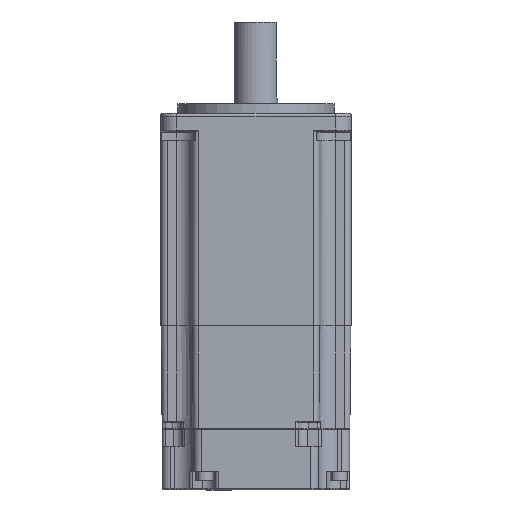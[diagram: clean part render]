
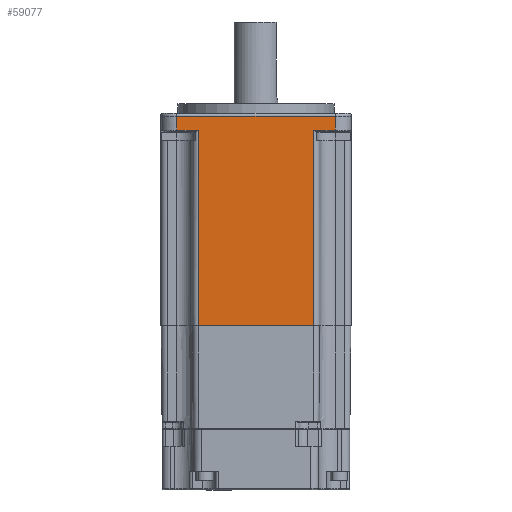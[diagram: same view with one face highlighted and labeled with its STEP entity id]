
A CAD part, front view. The second image highlights one B-rep face of the part: STEP entity #59077.
In plain terms, the highlighted planar face has unit normal (0, -1, 0).
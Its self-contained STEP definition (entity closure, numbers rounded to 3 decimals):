
#483 = VERTEX_POINT ( 'NONE', #37263 ) ;
#2258 = VECTOR ( 'NONE', #58758, 1000. ) ;
#2312 = CARTESIAN_POINT ( 'NONE',  ( -306.616, -30.381, -78.567 ) ) ;
#3154 = CARTESIAN_POINT ( 'NONE',  ( -299.618, -30.381, -79.012 ) ) ;
#3271 = ORIENTED_EDGE ( 'NONE', *, *, #13947, .T. ) ;
#4219 = VERTEX_POINT ( 'NONE', #39553 ) ;
#7218 = DIRECTION ( 'NONE',  ( -1., 0., 0. ) ) ;
#7244 = DIRECTION ( 'NONE',  ( 0., 0., -1. ) ) ;
#8065 = CARTESIAN_POINT ( 'NONE',  ( -350.382, -30.381, -79.012 ) ) ;
#8877 = ORIENTED_EDGE ( 'NONE', *, *, #68901, .F. ) ;
#10326 = CARTESIAN_POINT ( 'NONE',  ( -343.384, -30.381, -45.562 ) ) ;
#10704 = CARTESIAN_POINT ( 'NONE',  ( -350.382, -30.381, -15.953 ) ) ;
#13947 = EDGE_CURVE ( 'NONE', #483, #4219, #36443, .T. ) ;
#13955 = DIRECTION ( 'NONE',  ( 0., 0., 1. ) ) ;
#14325 = ORIENTED_EDGE ( 'NONE', *, *, #35401, .F. ) ;
#15958 = ORIENTED_EDGE ( 'NONE', *, *, #16786, .T. ) ;
#16786 = EDGE_CURVE ( 'NONE', #4219, #43932, #31518, .T. ) ;
#17446 = ORIENTED_EDGE ( 'NONE', *, *, #39463, .T. ) ;
#17832 = VECTOR ( 'NONE', #7244, 1000. ) ;
#18478 = AXIS2_PLACEMENT_3D ( 'NONE', #72721, #22954, #38848 ) ;
#18566 = CARTESIAN_POINT ( 'NONE',  ( -299.618, -30.381, -11.509 ) ) ;
#20634 = DIRECTION ( 'NONE',  ( 1., 0., 0. ) ) ;
#21408 = EDGE_LOOP ( 'NONE', ( #14325, #57493, #3271, #15958, #47988, #8877, #17446, #22026 ) ) ;
#22026 = ORIENTED_EDGE ( 'NONE', *, *, #37420, .T. ) ;
#22883 = EDGE_CURVE ( 'NONE', #49990, #483, #55942, .T. ) ;
#22954 = DIRECTION ( 'NONE',  ( 0., 1., 0. ) ) ;
#25807 = LINE ( 'NONE', #49404, #52733 ) ;
#28958 = VECTOR ( 'NONE', #42212, 1000. ) ;
#31274 = DIRECTION ( 'NONE',  ( 1., 0., 0. ) ) ;
#31518 = LINE ( 'NONE', #3154, #28958 ) ;
#33309 = FACE_OUTER_BOUND ( 'NONE', #21408, .T. ) ;
#33815 = CARTESIAN_POINT ( 'NONE',  ( -306.616, -30.381, -79.012 ) ) ;
#34463 = LINE ( 'NONE', #57703, #46031 ) ;
#35401 = EDGE_CURVE ( 'NONE', #49990, #65798, #34463, .T. ) ;
#36261 = LINE ( 'NONE', #63936, #2258 ) ;
#36443 = LINE ( 'NONE', #43066, #53218 ) ;
#37155 = VECTOR ( 'NONE', #13955, 1000. ) ;
#37228 = VERTEX_POINT ( 'NONE', #63059 ) ;
#37263 = CARTESIAN_POINT ( 'NONE',  ( -306.616, -30.381, -15.953 ) ) ;
#37420 = EDGE_CURVE ( 'NONE', #37228, #65798, #60817, .T. ) ;
#38848 = DIRECTION ( 'NONE',  ( 1., 0., 0. ) ) ;
#39463 = EDGE_CURVE ( 'NONE', #60497, #37228, #25807, .T. ) ;
#39553 = CARTESIAN_POINT ( 'NONE',  ( -299.618, -30.381, -15.953 ) ) ;
#42212 = DIRECTION ( 'NONE',  ( 0., 0., 1. ) ) ;
#43066 = CARTESIAN_POINT ( 'NONE',  ( -299.599, -30.381, -15.953 ) ) ;
#43932 = VERTEX_POINT ( 'NONE', #18566 ) ;
#45077 = PLANE ( 'NONE',  #18478 ) ;
#46031 = VECTOR ( 'NONE', #7218, 1000. ) ;
#47988 = ORIENTED_EDGE ( 'NONE', *, *, #61398, .T. ) ;
#49404 = CARTESIAN_POINT ( 'NONE',  ( -299.599, -30.381, -15.953 ) ) ;
#49990 = VERTEX_POINT ( 'NONE', #2312 ) ;
#52733 = VECTOR ( 'NONE', #20634, 1000. ) ;
#53218 = VECTOR ( 'NONE', #31274, 1000. ) ;
#55942 = LINE ( 'NONE', #33815, #65818 ) ;
#56305 = DIRECTION ( 'NONE',  ( 0., 0., 1. ) ) ;
#56909 = CARTESIAN_POINT ( 'NONE',  ( -343.384, -30.381, -78.567 ) ) ;
#57493 = ORIENTED_EDGE ( 'NONE', *, *, #22883, .T. ) ;
#57703 = CARTESIAN_POINT ( 'NONE',  ( -299.599, -30.381, -78.567 ) ) ;
#58569 = LINE ( 'NONE', #8065, #37155 ) ;
#58758 = DIRECTION ( 'NONE',  ( -1., 0., 0. ) ) ;
#59077 = ADVANCED_FACE ( 'NONE', ( #33309 ), #45077, .F. ) ;
#59147 = VERTEX_POINT ( 'NONE', #62751 ) ;
#60497 = VERTEX_POINT ( 'NONE', #10704 ) ;
#60817 = LINE ( 'NONE', #10326, #17832 ) ;
#61398 = EDGE_CURVE ( 'NONE', #43932, #59147, #36261, .T. ) ;
#62751 = CARTESIAN_POINT ( 'NONE',  ( -350.382, -30.381, -11.509 ) ) ;
#63059 = CARTESIAN_POINT ( 'NONE',  ( -343.384, -30.381, -15.953 ) ) ;
#63936 = CARTESIAN_POINT ( 'NONE',  ( -299.599, -30.381, -11.509 ) ) ;
#65798 = VERTEX_POINT ( 'NONE', #56909 ) ;
#65818 = VECTOR ( 'NONE', #56305, 1000. ) ;
#68901 = EDGE_CURVE ( 'NONE', #60497, #59147, #58569, .T. ) ;
#72721 = CARTESIAN_POINT ( 'NONE',  ( -299.599, -30.381, -79.012 ) ) ;
